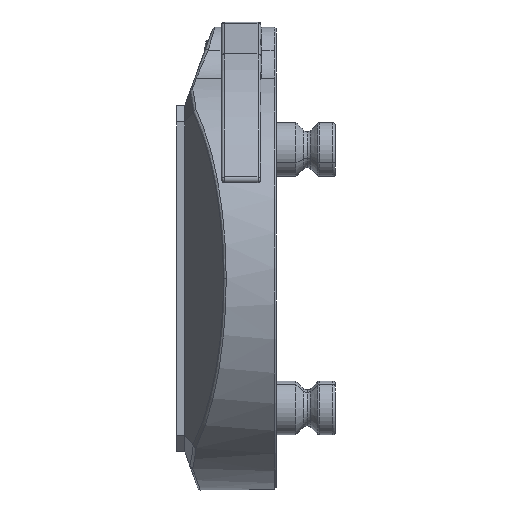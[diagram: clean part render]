
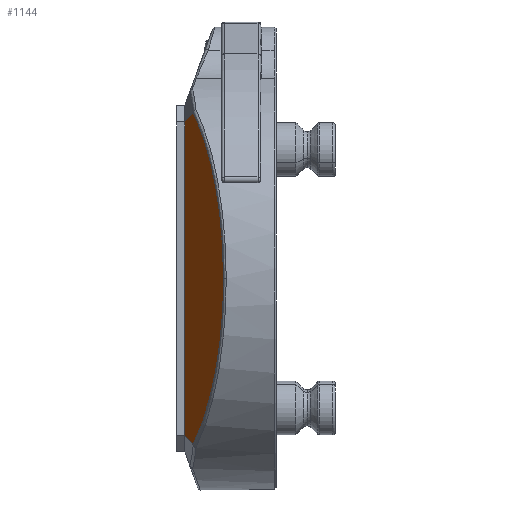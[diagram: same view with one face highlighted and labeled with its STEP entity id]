
A CAD part, left-side view. The second image highlights one B-rep face of the part: STEP entity #1144.
In plain terms, the highlighted planar face has unit normal (-0.342, 0.94, 0).
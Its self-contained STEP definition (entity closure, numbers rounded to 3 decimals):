
#84 = CARTESIAN_POINT ( 'NONE',  ( -66.182, 18.651, 47.009 ) ) ;
#110 = VECTOR ( 'NONE', #10363, 1000. ) ;
#290 = CARTESIAN_POINT ( 'NONE',  ( -35.055, 29.981, -57.134 ) ) ;
#993 = CARTESIAN_POINT ( 'NONE',  ( -77.384, 14.574, 0. ) ) ;
#1144 = ADVANCED_FACE ( 'NONE', ( #10954 ), #5100, .F. ) ;
#1386 = CARTESIAN_POINT ( 'NONE',  ( -37.75, 29., -58.25 ) ) ;
#1820 = ORIENTED_EDGE ( 'NONE', *, *, #8482, .T. ) ;
#2432 = ORIENTED_EDGE ( 'NONE', *, *, #3380, .F. ) ;
#3380 = EDGE_CURVE ( 'NONE', #7717, #10045, #5090, .T. ) ;
#4148 = DIRECTION ( 'NONE',  ( 0.94, 0.342, 0. ) ) ;
#4200 = VECTOR ( 'NONE', #4814, 1000. ) ;
#4265 = AXIS2_PLACEMENT_3D ( 'NONE', #6819, #10656, #4148 ) ;
#4457 = CARTESIAN_POINT ( 'NONE',  ( -77.384, 14.574, -24.839 ) ) ;
#4642 = VERTEX_POINT ( 'NONE', #993 ) ;
#4814 = DIRECTION ( 'NONE',  ( 0.876, 0.319, -0.363 ) ) ;
#4902 =( BOUNDED_CURVE ( )  B_SPLINE_CURVE ( 3, ( #7371, #8649, #84, #6608 ),
 .UNSPECIFIED., .F., .F. ) 
 B_SPLINE_CURVE_WITH_KNOTS ( ( 4, 4 ),
 ( 0., 0.936 ),
 .UNSPECIFIED. ) 
 CURVE ( )  GEOMETRIC_REPRESENTATION_ITEM ( )  RATIONAL_B_SPLINE_CURVE ( ( 1., 0.928, 0.928, 1. ) ) 
 REPRESENTATION_ITEM ( '' )  );
#4988 = CARTESIAN_POINT ( 'NONE',  ( -0.745, 42.469, 42.922 ) ) ;
#5058 = CARTESIAN_POINT ( 'NONE',  ( -37.75, 29., 58.25 ) ) ;
#5090 = LINE ( 'NONE', #8633, #110 ) ;
#5096 = ORIENTED_EDGE ( 'NONE', *, *, #9625, .T. ) ;
#5100 = PLANE ( 'NONE',  #4265 ) ;
#5169 = DIRECTION ( 'NONE',  ( 0.876, 0.319, 0.363 ) ) ;
#5382 = EDGE_CURVE ( 'NONE', #5788, #7717, #6843, .T. ) ;
#5788 = VERTEX_POINT ( 'NONE', #11166 ) ;
#6608 = CARTESIAN_POINT ( 'NONE',  ( -46.187, 25.929, 61.745 ) ) ;
#6819 = CARTESIAN_POINT ( 'NONE',  ( -37.75, 29., -58.25 ) ) ;
#6843 = LINE ( 'NONE', #290, #9336 ) ;
#7041 = EDGE_CURVE ( 'NONE', #8586, #10045, #8256, .T. ) ;
#7371 = CARTESIAN_POINT ( 'NONE',  ( -77.384, 14.574, 0. ) ) ;
#7717 = VERTEX_POINT ( 'NONE', #1386 ) ;
#8256 = LINE ( 'NONE', #4988, #4200 ) ;
#8308 = CARTESIAN_POINT ( 'NONE',  ( -77.384, 14.574, 0. ) ) ;
#8482 = EDGE_CURVE ( 'NONE', #5788, #4642, #10044, .T. ) ;
#8586 = VERTEX_POINT ( 'NONE', #10118 ) ;
#8633 = CARTESIAN_POINT ( 'NONE',  ( -37.75, 29., 58.25 ) ) ;
#8649 = CARTESIAN_POINT ( 'NONE',  ( -77.384, 14.574, 24.839 ) ) ;
#8738 = CARTESIAN_POINT ( 'NONE',  ( -46.187, 25.929, -61.745 ) ) ;
#9336 = VECTOR ( 'NONE', #5169, 1000. ) ;
#9625 = EDGE_CURVE ( 'NONE', #4642, #8586, #4902, .T. ) ;
#10044 =( BOUNDED_CURVE ( )  B_SPLINE_CURVE ( 3, ( #8738, #10746, #4457, #8308 ),
 .UNSPECIFIED., .F., .F. ) 
 B_SPLINE_CURVE_WITH_KNOTS ( ( 4, 4 ),
 ( 5.347, 6.283 ),
 .UNSPECIFIED. ) 
 CURVE ( )  GEOMETRIC_REPRESENTATION_ITEM ( )  RATIONAL_B_SPLINE_CURVE ( ( 1., 0.928, 0.928, 1. ) ) 
 REPRESENTATION_ITEM ( '' )  );
#10045 = VERTEX_POINT ( 'NONE', #5058 ) ;
#10118 = CARTESIAN_POINT ( 'NONE',  ( -46.187, 25.929, 61.745 ) ) ;
#10363 = DIRECTION ( 'NONE',  ( 0., 0., 1. ) ) ;
#10455 = ORIENTED_EDGE ( 'NONE', *, *, #5382, .F. ) ;
#10457 = EDGE_LOOP ( 'NONE', ( #10455, #1820, #5096, #11399, #2432 ) ) ;
#10656 = DIRECTION ( 'NONE',  ( 0.342, -0.94, 0. ) ) ;
#10746 = CARTESIAN_POINT ( 'NONE',  ( -66.182, 18.651, -47.009 ) ) ;
#10954 = FACE_OUTER_BOUND ( 'NONE', #10457, .T. ) ;
#11166 = CARTESIAN_POINT ( 'NONE',  ( -46.187, 25.929, -61.745 ) ) ;
#11399 = ORIENTED_EDGE ( 'NONE', *, *, #7041, .T. ) ;
